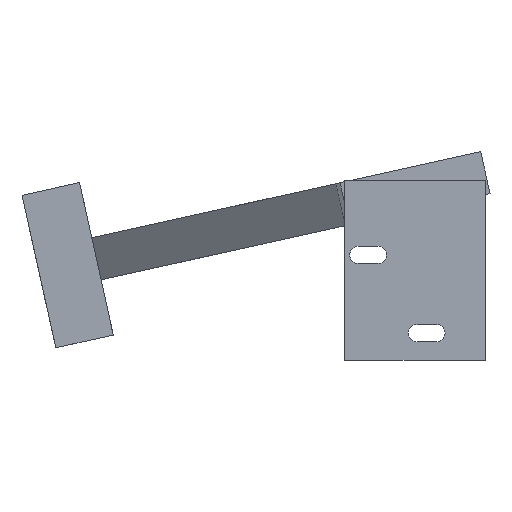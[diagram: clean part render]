
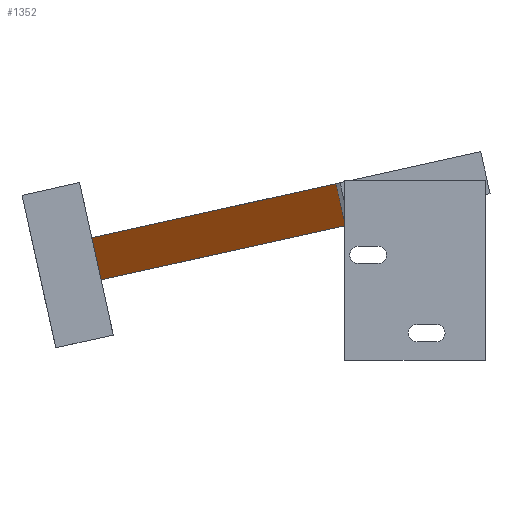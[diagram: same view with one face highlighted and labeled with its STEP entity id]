
A CAD part, front view. The second image highlights one B-rep face of the part: STEP entity #1352.
In plain terms, the highlighted planar face has unit normal (-0.599, -0.79, -0.133).
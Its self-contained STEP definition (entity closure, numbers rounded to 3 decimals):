
#249 = PLANE('',#250);
#250 = AXIS2_PLACEMENT_3D('',#251,#252,#253);
#251 = CARTESIAN_POINT('',(20.741,217.255,-266.71));
#252 = DIRECTION('',(0.976,0.,0.216));
#253 = DIRECTION('',(-0.216,0.,0.976));
#984 = VERTEX_POINT('',#985);
#985 = CARTESIAN_POINT('',(17.603,219.018,
    -252.553));
#998 = PLANE('',#999);
#999 = AXIS2_PLACEMENT_3D('',#1000,#1001,#1002);
#1000 = CARTESIAN_POINT('',(78.923,187.645,
    -238.962));
#1001 = DIRECTION('',(0.216,-0.,-0.976));
#1002 = DIRECTION('',(-0.976,0.,-0.216));
#1009 = EDGE_CURVE('',#1010,#984,#1012,.T.);
#1010 = VERTEX_POINT('',#1011);
#1011 = CARTESIAN_POINT('',(15.222,219.018,
    -241.814));
#1012 = SURFACE_CURVE('',#1013,(#1017,#1023),.PCURVE_S1.);
#1013 = LINE('',#1014,#1015);
#1014 = CARTESIAN_POINT('',(19.172,219.018,
    -259.632));
#1015 = VECTOR('',#1016,1.);
#1016 = DIRECTION('',(0.216,0.,-0.976)
  );
#1017 = PCURVE('',#249,#1018);
#1018 = DEFINITIONAL_REPRESENTATION('',(#1019),#1022);
#1019 = B_SPLINE_CURVE_WITH_KNOTS('',1,(#1020,#1021),.UNSPECIFIED.,.F.,
  .F.,(2,2),(-18.25,-7.25),.PIECEWISE_BEZIER_KNOTS.);
#1020 = CARTESIAN_POINT('',(25.5,-1.763));
#1021 = CARTESIAN_POINT('',(14.5,-1.763));
#1022 = ( GEOMETRIC_REPRESENTATION_CONTEXT(2) 
PARAMETRIC_REPRESENTATION_CONTEXT() REPRESENTATION_CONTEXT('2D SPACE',''
  ) );
#1023 = PCURVE('',#1024,#1029);
#1024 = PLANE('',#1025);
#1025 = AXIS2_PLACEMENT_3D('',#1026,#1027,#1028);
#1026 = CARTESIAN_POINT('',(80.19,169.2,-238.681));
#1027 = DIRECTION('',(-0.599,-0.79,-0.133));
#1028 = DIRECTION('',(-0.771,0.614,-0.171));
#1029 = DEFINITIONAL_REPRESENTATION('',(#1030),#1033);
#1030 = B_SPLINE_CURVE_WITH_KNOTS('',1,(#1031,#1032),.UNSPECIFIED.,.F.,
  .F.,(2,2),(-18.25,-7.25),.PIECEWISE_BEZIER_KNOTS.);
#1031 = CARTESIAN_POINT('',(81.188,-11.));
#1032 = CARTESIAN_POINT('',(81.188,0.));
#1033 = ( GEOMETRIC_REPRESENTATION_CONTEXT(2) 
PARAMETRIC_REPRESENTATION_CONTEXT() REPRESENTATION_CONTEXT('2D SPACE',''
  ) );
#1048 = PLANE('',#1049);
#1049 = AXIS2_PLACEMENT_3D('',#1050,#1051,#1052);
#1050 = CARTESIAN_POINT('',(76.543,187.645,
    -228.222));
#1051 = DIRECTION('',(0.216,-0.,-0.976));
#1052 = DIRECTION('',(-0.976,0.,-0.216));
#1305 = VERTEX_POINT('',#1306);
#1306 = CARTESIAN_POINT('',(77.81,169.2,-227.941));
#1320 = PLANE('',#1321);
#1321 = AXIS2_PLACEMENT_3D('',#1322,#1323,#1324);
#1322 = CARTESIAN_POINT('',(81.19,109.2,-238.459));
#1323 = DIRECTION('',(-0.976,-0.017,
    -0.216));
#1324 = DIRECTION('',(-0.017,1.,
    -0.004));
#1332 = EDGE_CURVE('',#1305,#1010,#1333,.T.);
#1333 = SURFACE_CURVE('',#1334,(#1338,#1345),.PCURVE_S1.);
#1334 = LINE('',#1335,#1336);
#1335 = CARTESIAN_POINT('',(77.81,169.2,-227.941));
#1336 = VECTOR('',#1337,1.);
#1337 = DIRECTION('',(-0.771,0.614,-0.171));
#1338 = PCURVE('',#1048,#1339);
#1339 = DEFINITIONAL_REPRESENTATION('',(#1340),#1344);
#1340 = LINE('',#1341,#1342);
#1341 = CARTESIAN_POINT('',(-1.298,-18.445));
#1342 = VECTOR('',#1343,1.);
#1343 = DIRECTION('',(0.79,0.614));
#1344 = ( GEOMETRIC_REPRESENTATION_CONTEXT(2) 
PARAMETRIC_REPRESENTATION_CONTEXT() REPRESENTATION_CONTEXT('2D SPACE',''
  ) );
#1345 = PCURVE('',#1024,#1346);
#1346 = DEFINITIONAL_REPRESENTATION('',(#1347),#1351);
#1347 = LINE('',#1348,#1349);
#1348 = CARTESIAN_POINT('',(0.,-11.));
#1349 = VECTOR('',#1350,1.);
#1350 = DIRECTION('',(1.,0.));
#1351 = ( GEOMETRIC_REPRESENTATION_CONTEXT(2) 
PARAMETRIC_REPRESENTATION_CONTEXT() REPRESENTATION_CONTEXT('2D SPACE',''
  ) );
#1352 = ADVANCED_FACE('',(#1353),#1024,.T.);
#1353 = FACE_BOUND('',#1354,.T.);
#1354 = EDGE_LOOP('',(#1355,#1378,#1399,#1400));
#1355 = ORIENTED_EDGE('',*,*,#1356,.F.);
#1356 = EDGE_CURVE('',#1357,#984,#1359,.T.);
#1357 = VERTEX_POINT('',#1358);
#1358 = CARTESIAN_POINT('',(80.19,169.2,-238.681));
#1359 = SURFACE_CURVE('',#1360,(#1364,#1371),.PCURVE_S1.);
#1360 = LINE('',#1361,#1362);
#1361 = CARTESIAN_POINT('',(80.19,169.2,-238.681));
#1362 = VECTOR('',#1363,1.);
#1363 = DIRECTION('',(-0.771,0.614,-0.171));
#1364 = PCURVE('',#1024,#1365);
#1365 = DEFINITIONAL_REPRESENTATION('',(#1366),#1370);
#1366 = LINE('',#1367,#1368);
#1367 = CARTESIAN_POINT('',(0.,0.));
#1368 = VECTOR('',#1369,1.);
#1369 = DIRECTION('',(1.,0.));
#1370 = ( GEOMETRIC_REPRESENTATION_CONTEXT(2) 
PARAMETRIC_REPRESENTATION_CONTEXT() REPRESENTATION_CONTEXT('2D SPACE',''
  ) );
#1371 = PCURVE('',#998,#1372);
#1372 = DEFINITIONAL_REPRESENTATION('',(#1373),#1377);
#1373 = LINE('',#1374,#1375);
#1374 = CARTESIAN_POINT('',(-1.298,-18.445));
#1375 = VECTOR('',#1376,1.);
#1376 = DIRECTION('',(0.79,0.614));
#1377 = ( GEOMETRIC_REPRESENTATION_CONTEXT(2) 
PARAMETRIC_REPRESENTATION_CONTEXT() REPRESENTATION_CONTEXT('2D SPACE',''
  ) );
#1378 = ORIENTED_EDGE('',*,*,#1379,.T.);
#1379 = EDGE_CURVE('',#1357,#1305,#1380,.T.);
#1380 = SURFACE_CURVE('',#1381,(#1385,#1392),.PCURVE_S1.);
#1381 = LINE('',#1382,#1383);
#1382 = CARTESIAN_POINT('',(80.19,169.2,-238.681));
#1383 = VECTOR('',#1384,1.);
#1384 = DIRECTION('',(-0.216,0.,0.976));
#1385 = PCURVE('',#1024,#1386);
#1386 = DEFINITIONAL_REPRESENTATION('',(#1387),#1391);
#1387 = LINE('',#1388,#1389);
#1388 = CARTESIAN_POINT('',(0.,0.));
#1389 = VECTOR('',#1390,1.);
#1390 = DIRECTION('',(0.,-1.));
#1391 = ( GEOMETRIC_REPRESENTATION_CONTEXT(2) 
PARAMETRIC_REPRESENTATION_CONTEXT() REPRESENTATION_CONTEXT('2D SPACE',''
  ) );
#1392 = PCURVE('',#1320,#1393);
#1393 = DEFINITIONAL_REPRESENTATION('',(#1394),#1398);
#1394 = LINE('',#1395,#1396);
#1395 = CARTESIAN_POINT('',(60.009,0.));
#1396 = VECTOR('',#1397,1.);
#1397 = DIRECTION('',(0.,-1.));
#1398 = ( GEOMETRIC_REPRESENTATION_CONTEXT(2) 
PARAMETRIC_REPRESENTATION_CONTEXT() REPRESENTATION_CONTEXT('2D SPACE',''
  ) );
#1399 = ORIENTED_EDGE('',*,*,#1332,.T.);
#1400 = ORIENTED_EDGE('',*,*,#1009,.T.);
